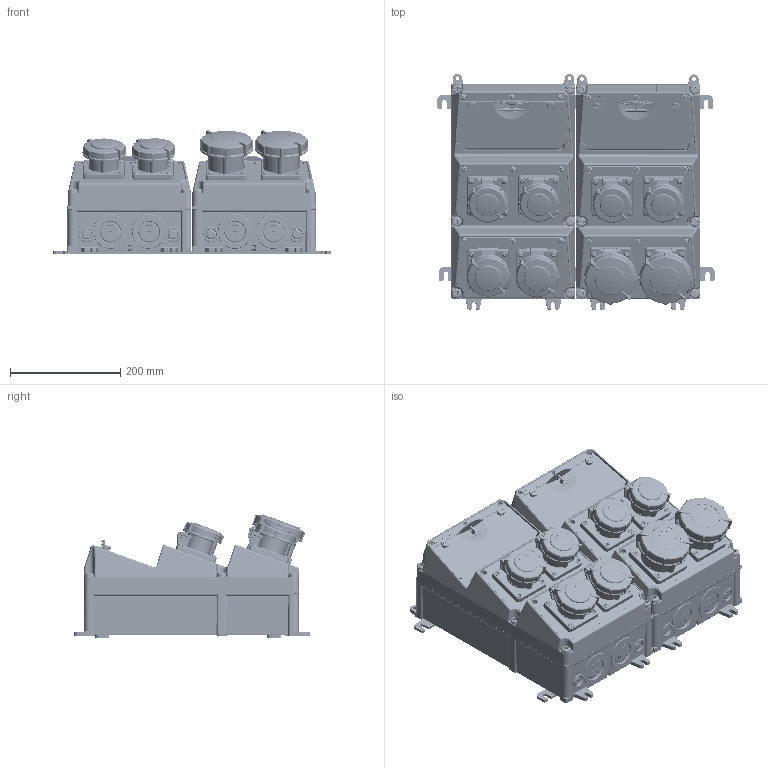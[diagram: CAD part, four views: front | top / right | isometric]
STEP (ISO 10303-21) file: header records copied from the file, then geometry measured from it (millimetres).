
FILE_DESCRIPTION((''),'2;1');
FILE_NAME('901445-0_ASM_1_ASM','2018-08-20T',('kremer'),('MENNEKES'),'PRO/ENGINEER BY PARAMETRIC TECHNOLOGY CORPORATION, 2015440','PRO/ENGINEER BY PARAMETRIC TECHNOLOGY CORPORATION, 2015440','');
FILE_SCHEMA(('AUTOMOTIVE_DESIGN { 1 0 10303 214 1 1 1 1 }'));
Products named in the file (16): 3-4_SW_O_GRAU_1; AMAXX_WS_2GEH__1; MP_FEN10_67_OBEN_GRAU_1; MP_LEER_GRAU_1; MANIFOLD_SOLID_BREP_301986; MANIFOLD_SOLID_BREP_390349; MANIFOLD_SOLID_BREP_390686; MANIFOLD_SOLID_BREP_393165; FI_4POL_4TE_1_ASM; LS_3POL_3TE_1; LS_1POL_1TE_1; BAUTEIL_DUMMY__1; FL85X75_CEE_32_3_67_ROT_1; FL75X75_CEE_16_4_67_ROT_1; FL75X75_CEE_16_3_67_BLAU_1; 901445-0_ASM_1_ASM
Assembly tree (31 placements, depth 3):
  901445-0_ASM_1_ASM
    3-4_SW_O_GRAU_1  x2
    AMAXX_WS_2GEH__1  x2
    MP_FEN10_67_OBEN_GRAU_1  x2
    MP_LEER_GRAU_1  x4
    FI_4POL_4TE_1_ASM
      MANIFOLD_SOLID_BREP_301986
      MANIFOLD_SOLID_BREP_390349
      MANIFOLD_SOLID_BREP_390686
      MANIFOLD_SOLID_BREP_393165
    LS_3POL_3TE_1  x3
    LS_1POL_1TE_1  x4
    BAUTEIL_DUMMY__1
    FL85X75_CEE_32_3_67_ROT_1  x2
    FL75X75_CEE_16_4_67_ROT_1  x2
    FL75X75_CEE_16_3_67_BLAU_1  x4
Bounding box: 503.2 x 429.2 x 224 mm (x, y, z)
Volume: 19405700.6 mm3; surface area: 2269478.2 mm2
Topology: 29 solids, 29 shells, 23558 faces, 65509 edges, 41975 vertices
Faces by surface type: plane 10977, cylinder 6562, bspline 2189, torus 2037, cone 1042, sphere 494, extrusion 257
Entity records: 536002 total; most frequent: CARTESIAN_POINT 148609, ORIENTED_EDGE 61518, DIRECTION 53951, EDGE_CURVE 30759, PRESENTATION_STYLE_ASSIGNMENT 20516, VERTEX_POINT 19766, AXIS2_PLACEMENT_3D 18641, STYLED_ITEM 17955
